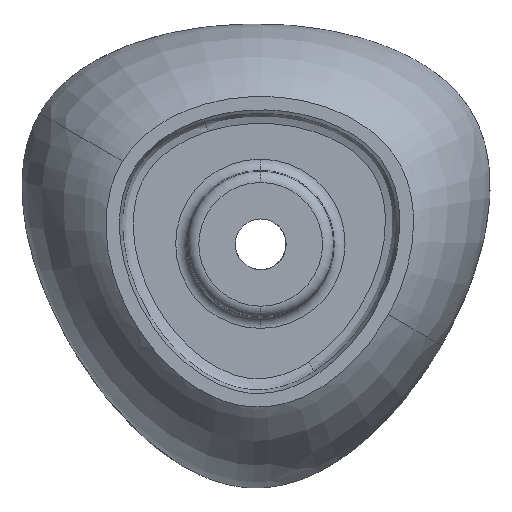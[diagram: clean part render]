
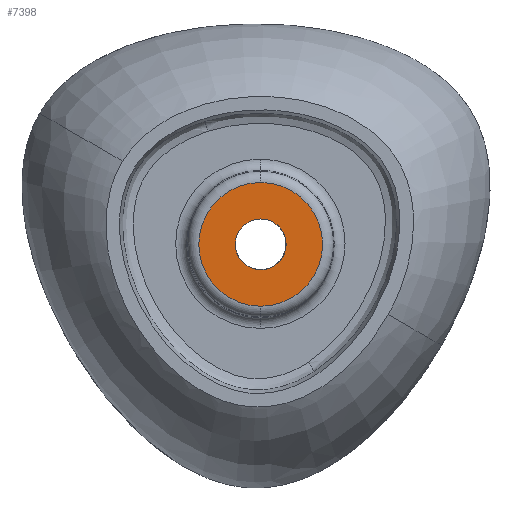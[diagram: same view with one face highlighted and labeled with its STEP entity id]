
A CAD part, front view. The second image highlights one B-rep face of the part: STEP entity #7398.
In plain terms, the highlighted planar face has unit normal (0.017, -0.999, -0.03).
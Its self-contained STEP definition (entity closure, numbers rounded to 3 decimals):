
#28 = CIRCLE ( 'NONE', #18011, 22.5 ) ;
#503 = CARTESIAN_POINT ( 'NONE',  ( 4.146, 168.608, 49.409 ) ) ;
#1021 = VERTEX_POINT ( 'NONE', #8224 ) ;
#1059 = AXIS2_PLACEMENT_3D ( 'NONE', #18697, #3853, #20732 ) ;
#2247 = CARTESIAN_POINT ( 'NONE',  ( 4.146, 170.231, -5.394 ) ) ;
#2613 = CIRCLE ( 'NONE', #11254, 54.827 ) ;
#2968 = ORIENTED_EDGE ( 'NONE', *, *, #6213, .T. ) ;
#3853 = DIRECTION ( 'NONE',  ( 0.017, -0.999, -0.03 ) ) ;
#4286 = EDGE_LOOP ( 'NONE', ( #5882, #19247 ) ) ;
#4991 = CARTESIAN_POINT ( 'NONE',  ( 4.146, 170.896, -27.884 ) ) ;
#5416 = EDGE_CURVE ( 'NONE', #1021, #14447, #28, .T. ) ;
#5495 = ORIENTED_EDGE ( 'NONE', *, *, #18145, .T. ) ;
#5541 = FACE_BOUND ( 'NONE', #4286, .T. ) ;
#5625 = AXIS2_PLACEMENT_3D ( 'NONE', #9310, #9206, #6273 ) ;
#5882 = ORIENTED_EDGE ( 'NONE', *, *, #9794, .F. ) ;
#6213 = EDGE_CURVE ( 'NONE', #6963, #6317, #10401, .T. ) ;
#6273 = DIRECTION ( 'NONE',  ( 0., 0.03, -1. ) ) ;
#6317 = VERTEX_POINT ( 'NONE', #503 ) ;
#6739 = PLANE ( 'NONE',  #7001 ) ;
#6963 = VERTEX_POINT ( 'NONE', #18168 ) ;
#7001 = AXIS2_PLACEMENT_3D ( 'NONE', #13676, #18656, #19961 ) ;
#7287 = EDGE_LOOP ( 'NONE', ( #2968, #5495 ) ) ;
#7398 = ADVANCED_FACE ( 'NONE', ( #13566, #5541 ), #6739, .T. ) ;
#8224 = CARTESIAN_POINT ( 'NONE',  ( 4.146, 169.565, 17.097 ) ) ;
#8839 = DIRECTION ( 'NONE',  ( 0.017, -0.999, -0.03 ) ) ;
#9206 = DIRECTION ( 'NONE',  ( 0.017, -0.999, -0.03 ) ) ;
#9310 = CARTESIAN_POINT ( 'NONE',  ( 4.146, 170.231, -5.394 ) ) ;
#9794 = EDGE_CURVE ( 'NONE', #14447, #1021, #13588, .T. ) ;
#10401 = CIRCLE ( 'NONE', #1059, 54.827 ) ;
#11254 = AXIS2_PLACEMENT_3D ( 'NONE', #2247, #8839, #15457 ) ;
#13566 = FACE_OUTER_BOUND ( 'NONE', #7287, .T. ) ;
#13588 = CIRCLE ( 'NONE', #5625, 22.5 ) ;
#13676 = CARTESIAN_POINT ( 'NONE',  ( -2.903, 169.802, 5.028 ) ) ;
#13999 = DIRECTION ( 'NONE',  ( 0.017, -0.999, -0.03 ) ) ;
#14447 = VERTEX_POINT ( 'NONE', #4991 ) ;
#15457 = DIRECTION ( 'NONE',  ( 0., 0.03, -1. ) ) ;
#15522 = CARTESIAN_POINT ( 'NONE',  ( 4.146, 170.231, -5.394 ) ) ;
#18011 = AXIS2_PLACEMENT_3D ( 'NONE', #15522, #13999, #18876 ) ;
#18145 = EDGE_CURVE ( 'NONE', #6317, #6963, #2613, .T. ) ;
#18168 = CARTESIAN_POINT ( 'NONE',  ( 4.146, 171.853, -60.196 ) ) ;
#18656 = DIRECTION ( 'NONE',  ( 0.017, -0.999, -0.03 ) ) ;
#18697 = CARTESIAN_POINT ( 'NONE',  ( 4.146, 170.231, -5.394 ) ) ;
#18876 = DIRECTION ( 'NONE',  ( 0., 0.03, -1. ) ) ;
#19247 = ORIENTED_EDGE ( 'NONE', *, *, #5416, .F. ) ;
#19961 = DIRECTION ( 'NONE',  ( 0., 0.03, -1. ) ) ;
#20732 = DIRECTION ( 'NONE',  ( 0., 0.03, -1. ) ) ;
